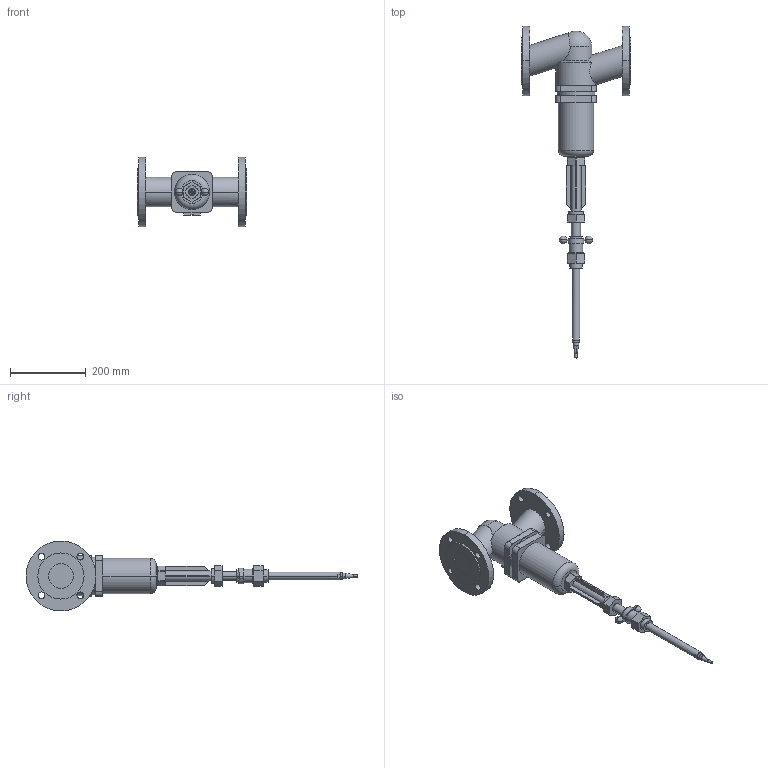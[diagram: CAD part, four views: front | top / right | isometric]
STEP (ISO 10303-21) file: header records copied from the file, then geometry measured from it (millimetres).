
FILE_DESCRIPTION(('CoCreate Modeling STEP Export'),'2;1');
FILE_NAME('c000004781.stp','2011-09-22T11:17:02',(''),(''),'CoCreate Modeling STEP processor for AP214 (Solid Model)','CoCreate Modeling 17.0 01-Apr-2010 (C) Parametric Technology GmbH','');
FILE_SCHEMA(('AUTOMOTIVE_DESIGN { 1 0 10303 214 1 1 1 1 }'));
Length unit declared in the file: millimetre
Products named in the file (1): 1
Bounding box: 290 x 878.55 x 185 mm (x, y, z)
Volume: 4588159.6 mm3; surface area: 348007.2 mm2
Topology: 1 solids, 1 shells, 204 faces, 508 edges, 323 vertices
Faces by surface type: plane 92, cylinder 90, sphere 10, cone 10, torus 2
Entity records: 7597 total; most frequent: CARTESIAN_POINT 1475, ORIENTED_EDGE 996, DIRECTION 839, EDGE_CURVE 498, VERTEX_POINT 323, AXIS2_PLACEMENT_3D 293, VECTOR 253, LINE 253
